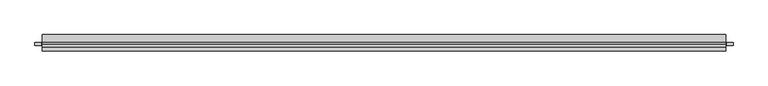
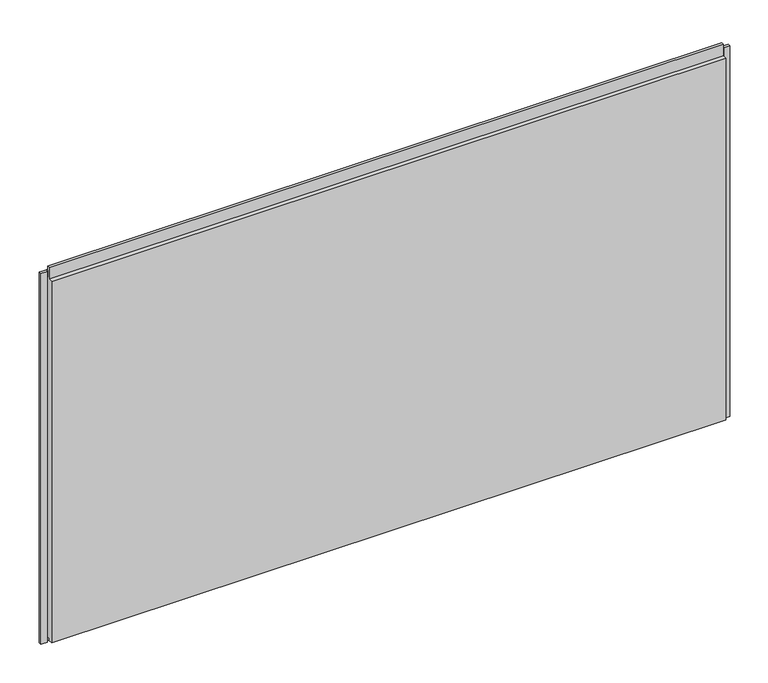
"""IFC4 building model written with IfcOpenShell, lengths in millimetres: plate geometry, Trimo_Qbiss Screen_Normal Panel-HORIZONTAL : HR - B."""

from ifc_helpers import new_model, si_unit, frame, origin, place, context, project, spatial, polyline, outline, extrude, source, transform, mapped, element, save


def plate_71c73165(model_context):
    return source(origin(), model_context, "Body", "SweptSolid", [
        extrude(outline(polyline([(-1034.25, 76.5978162), (-1034.25, 67.8978162), (-1053.25, 67.8978162), (-1053.25, 76.5978162), (-1034.25, 76.5978162)])), frame((0.0, 0.0, -1.0), z_axis=(0.0, 0.0, 1.0), x_axis=(1.0, 0.0, 0.0)), (0.0, 0.0, 1.0), 1200.0),
        extrude(outline(polyline([(1034.25, 67.8978162), (1034.25, 76.5978162), (1053.25, 76.5978162), (1053.25, 67.8978162), (1034.25, 67.8978162)])), frame((0.0, 0.0, -1.0), z_axis=(0.0, 0.0, 1.0), x_axis=(1.0, 0.0, 0.0)), (0.0, 0.0, 1.0), 1200.0),
        extrude(outline(polyline([(1031.25, 76.0), (1031.25, 71.0), (-1031.25, 71.0), (-1031.25, 76.0), (1031.25, 76.0)])), frame((0.0, 0.0, 1178.0), z_axis=(0.0, 0.0, 1.0), x_axis=(1.0, 0.0, 0.0)), (0.0, 0.0, 1.0), 21.0),
        extrude(outline(polyline([(71.0, 1177.0), (100.0, 1177.0), (100.0, 0.0), (72.0, 0.0), (72.0, 15.5), (62.0, 15.5), (62.0, 7.0), (50.0, 7.0), (50.0, 1177.0), (63.0, 1177.0), (63.0, 1214.5), (71.0, 1214.5), (71.0, 1177.0)])), frame((-1031.25, 0.0, 0.0), z_axis=(1.0, 0.0, 0.0), x_axis=(0.0, 1.0, 0.0)), (0.0, 0.0, 1.0), 2062.5),
    ])


if __name__ == "__main__":
    model = new_model("IFC4")
    model_context = context("Model", 3, world=origin())
    ifc_project = project(units=[si_unit("LENGTHUNIT", "METRE", prefix="MILLI")], contexts=[model_context])
    site = spatial("IfcSite", under=ifc_project)
    building = spatial("IfcBuilding", under=site)
    placement = place(None, origin())
    plate_shape = plate_71c73165(model_context)
    element("IfcPlate", 1, ObjectType="Trimo_Qbiss Screen_Normal Panel-HORIZONTAL : HR - B", at=placement, inside=building, context=model_context, shape_type="MappedRepresentation", body=[
        mapped(plate_shape, transform((0.0, 0.0, 0.0), x_axis=(1.0, 0.0, 0.0), y_axis=(0.0, 1.0, 0.0), z_axis=(0.0, 0.0, 1.0))),
    ])
    save(model, "model.ifc")
